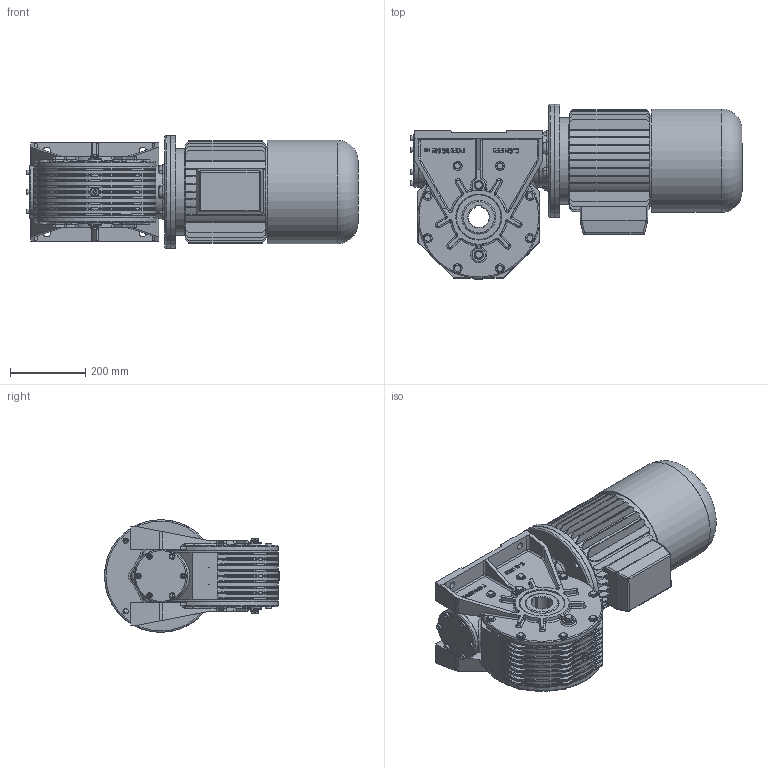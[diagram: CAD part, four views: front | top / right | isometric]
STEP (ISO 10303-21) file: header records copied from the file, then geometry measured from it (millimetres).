
FILE_DESCRIPTION((''),'2;1');
FILE_NAME('Y:\Archivi Inventor\Prog_01\GRAND_70\complessivi\Figurini\mrv70 sito\132s autofrenante\MRV70_P1_132S_B5.stp','2013-02-08T15:13:22',('tech3'),(''),'Autodesk Inventor 2013','Autodesk Inventor 2013','');
FILE_SCHEMA(('AUTOMOTIVE_DESIGN { 1 0 10303 214 1 1 1 1 }'));
Length unit declared in the file: millimetre
Products named in the file (17): MRV70_132S_132M_B5; MRV70 figurino; 0107001-A0 figurino; 0107008.A0 figurino; 0107010.A0 figurino; 0107029; 0107009; 0107028; DIN 3760 AS AS - 90 x 120 x 12 - NBR; UNI 8839 A 8; Guarnizione 3_8 GAS; Tappo 3_8 GAS_esagn_incsst; DIN EN ISO 4762 M8 x 20; DIN EN 24017 M10 x 20; Tappo3_8 GAS; 0107006; motori B5 brake 132S
Assembly tree (60 placements, depth 3):
  MRV70_132S_132M_B5
    MRV70 figurino
      0107001-A0 figurino
      0107008.A0 figurino
      0107010.A0 figurino  x2
      0107029  x2
      0107009
      0107028  x2
      DIN 3760 AS AS - 90 x 120 x 12 - NBR  x2
      UNI 8839 A 8  x6
      Guarnizione 3_8 GAS  x6
      Tappo 3_8 GAS_esagn_incsst  x2
      DIN EN ISO 4762 M8 x 20  x6
      DIN EN 24017 M10 x 20  x16
      Tappo3_8 GAS  x4
    0107006
    DIN EN ISO 4762 M8 x 20  x6
    motori B5 brake 132S
Bounding box: 883.4 x 466 x 300 mm (x, y, z)
Volume: 32726297.8 mm3; surface area: 2841693.8 mm2
Topology: 60 solids, 60 shells, 2964 faces, 7335 edges, 4521 vertices
Faces by surface type: plane 1224, cylinder 664, bspline 655, cone 208, torus 205, sphere 8
Full cylindrical faces by diameter (mm): 2 x2, 5 x1, 6.647 x12, 8 x14, 8.376 x16, 8.5 x24, 10 x16, 10.5 x16, 11 x16, 13 x12, 13.046 x4, 14 x8, 14.63 x16, 14.95 x6, 16.3 x6, 16.5 x2, 18 x4, 20 x6, 22 x12, 24 x18, 25 x4, 38 x1, 61 x1, 75 x1, 90 x4, 97.2 x2, 100 x6, 114 x2, 120 x4, 139 x2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
Entity records: 66486 total; most frequent: CARTESIAN_POINT 24598, ORIENTED_EDGE 8536, DIRECTION 7828, EDGE_CURVE 4268, AXIS2_PLACEMENT_3D 2981, VERTEX_POINT 2749, EDGE_LOOP 2215, VECTOR 1866
